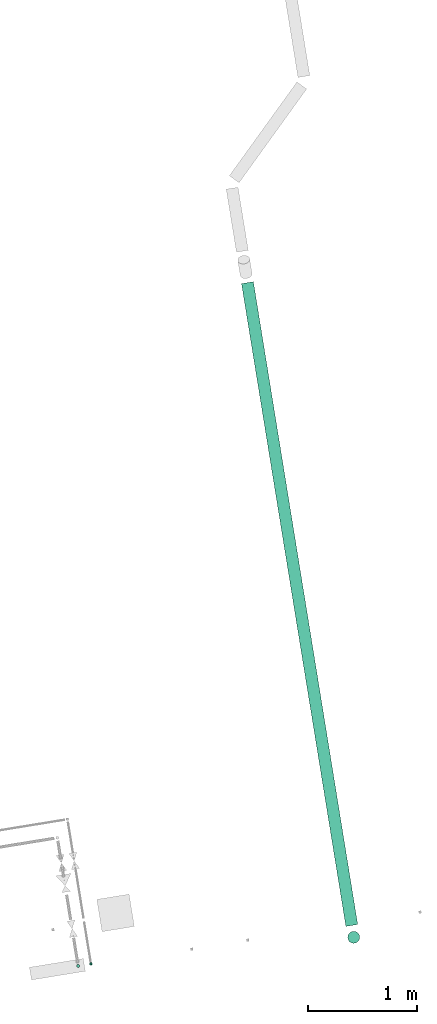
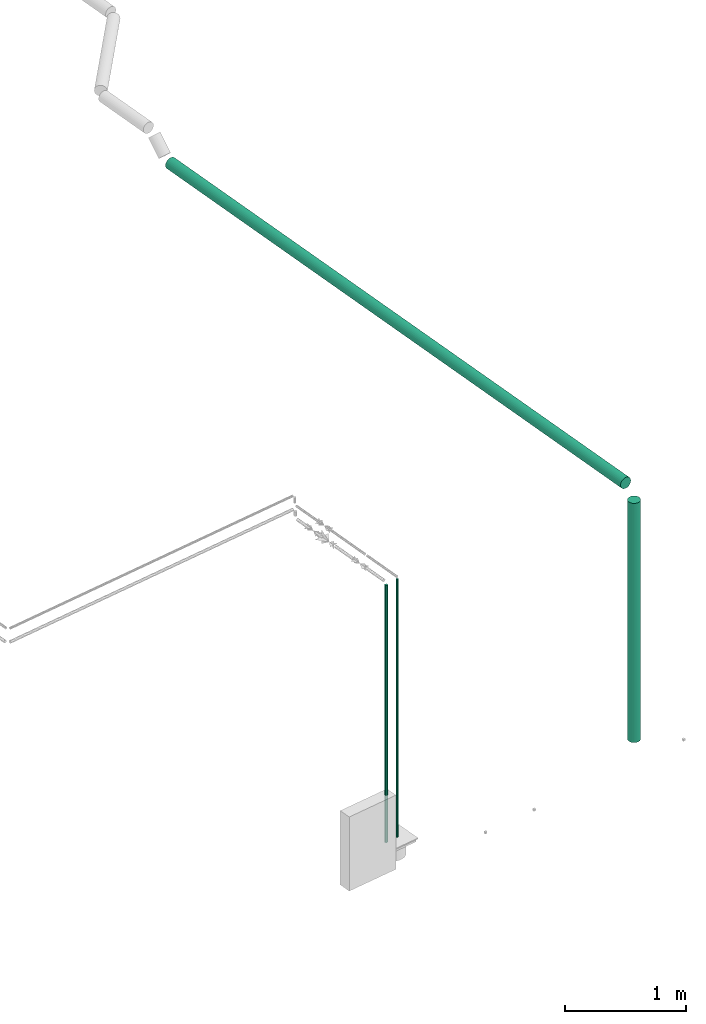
# One storey, part 3 of 10: 4 flow segments.
"""IFC2X3 building model written with IfcOpenShell, lengths in millimetres."""

from ifc_helpers import new_model, entity, si_unit, converted_unit, derived_unit, direction, frame, frame_2d, origin, origin_with_axes, origin_2d_with_axis, place, context, subcontext, project, spatial, circle, extrude, type_object, element, save


model = new_model("IFC2X3")

# Units and contexts
model_context = context("Model", 3, precision=0.01, world=origin(), true_north=direction((6.12323399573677e-17, 1.0)))
plan_context = context("Plan", 3, precision=1e-05, world=origin_with_axes())
body_context = subcontext(model_context, "Body", "Model", "MODEL_VIEW")
ifc_project = project(units=[converted_unit("PLANEANGLEUNIT", "DEGREE", entity("IfcPositiveLengthMeasure", 0.0174532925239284), si_unit("PLANEANGLEUNIT", "RADIAN"), dimensions=[0, 0, 0, 0, 0, 0, 0]), si_unit("AREAUNIT", "SQUARE_METRE"), si_unit("LENGTHUNIT", "METRE", prefix="MILLI"), si_unit("MASSUNIT", "GRAM", prefix="KILO"), si_unit("POWERUNIT", "WATT"), si_unit("PRESSUREUNIT", "PASCAL", prefix="KILO"), si_unit("FORCEUNIT", "NEWTON", prefix="KILO"), si_unit("ELECTRICVOLTAGEUNIT", "VOLT"), si_unit("ELECTRICCURRENTUNIT", "AMPERE"), si_unit("THERMODYNAMICTEMPERATUREUNIT", "DEGREE_CELSIUS"), si_unit("TIMEUNIT", "SECOND"), si_unit("VOLUMEUNIT", "CUBIC_METRE"), derived_unit("LINEARVELOCITYUNIT", [(si_unit("LENGTHUNIT", "METRE"), 1), (si_unit("TIMEUNIT", "SECOND"), -1)]), derived_unit("VOLUMETRICFLOWRATEUNIT", [(si_unit("VOLUMEUNIT", "CUBIC_METRE"), 1), (si_unit("TIMEUNIT", "SECOND"), -1)]), derived_unit("THERMALTRANSMITTANCEUNIT", [(si_unit("POWERUNIT", "WATT"), 1), (si_unit("THERMODYNAMICTEMPERATUREUNIT", "KELVIN"), -1), (si_unit("AREAUNIT", "SQUARE_METRE"), -1)]), derived_unit("SOUNDPRESSUREUNIT", [(si_unit("PRESSUREUNIT", "PASCAL"), 1)])], contexts=[model_context, plan_context])

# Site, building, storey
site_placement = place(None, frame((-0.000710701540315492, 0.00438415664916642, 0.0), z_axis=(0.0, 0.0, 1.0), x_axis=(-0.160236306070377, 0.987078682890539, 0.0)))
site = spatial("IfcSite", under=ifc_project, at=site_placement, Name="Default", CompositionType="ELEMENT")
building_placement = place(site_placement, origin_with_axes())
building = spatial("IfcBuilding", under=site, at=building_placement, CompositionType="ELEMENT")
storey_placement = place(building_placement, frame((0.0, 0.0, 50999.9999999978), z_axis=(0.0, 0.0, 1.0), x_axis=(1.0, 0.0, 0.0)))
storey = spatial("IfcBuildingStorey", under=building, at=storey_placement, Name="Nivå D", CompositionType="ELEMENT", Elevation=50999.9999999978)

# Flow segments
pipe_segment_type_1 = type_object("IfcPipeSegmentType", Name="Pipe Types:Kobberrør", PredefinedType="NOTDEFINED")
flow_segment_1_placement = place(storey_placement, origin_with_axes())
element("IfcFlowSegment", 1, at=flow_segment_1_placement, inside=storey, type_object=pipe_segment_type_1, Name="Pipe Types:Kobberrør", ObjectType="Pipe Types:Kobberrør", context=body_context, shape_type="SweptSolid", body=[
    extrude(circle(Radius=11.0, at=origin_2d_with_axis()), frame((768913.47664694, -596745.303776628, 370.0)), (0.0, 0.0, 1.0), 2608.0),
])
flow_segment_2_placement = place(storey_placement, origin_with_axes())
element("IfcFlowSegment", 2, at=flow_segment_2_placement, inside=storey, type_object=pipe_segment_type_1, Name="Pipe Types:Kobberrør", ObjectType="Pipe Types:Kobberrør", context=body_context, shape_type="SweptSolid", body=[
    extrude(circle(Radius=14.0, at=frame_2d((0.0, 6.93034962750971e-11), x_axis=(1.0, 0.0))), frame((768913.47664694, -596627.303776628, 370.0)), (0.0, 0.0, 1.0), 2602.0),
])
pipe_segment_type_2 = type_object("IfcPipeSegmentType", Name="Pipe Types:Rustfrie stålrør", PredefinedType="NOTDEFINED")
flow_segment_3_placement = place(storey_placement, origin_with_axes())
element("IfcFlowSegment", 3, at=flow_segment_3_placement, inside=storey, type_object=pipe_segment_type_2, Name="Pipe Types:Rustfrie stålrør", ObjectType="Pipe Types:Rustfrie stålrør", context=body_context, shape_type="SweptSolid", body=[
    extrude(circle(Radius=55.0000000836, at=origin_2d_with_axis()), frame((768767.619644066, -599160.779433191, 370.0)), (0.0, 0.0, 1.0), 2420.0),
])
flow_segment_4_placement = place(storey_placement, origin_with_axes())
element("IfcFlowSegment", 4, at=flow_segment_4_placement, inside=storey, type_object=pipe_segment_type_2, Name="Pipe Types:Rustfrie stålrør", ObjectType="Pipe Types:Rustfrie stålrør", context=body_context, shape_type="SweptSolid", body=[
    extrude(circle(Radius=55.0000000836, at=origin_2d_with_axis()), frame((768877.619644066, -599160.779433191, 2900.0), z_axis=(1.0, 0.0, 0.0), x_axis=(0.0, -1.0, 0.0)), (0.0, 0.0, 1.0), 5964.56338274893),
])

save(model, "model.ifc")
